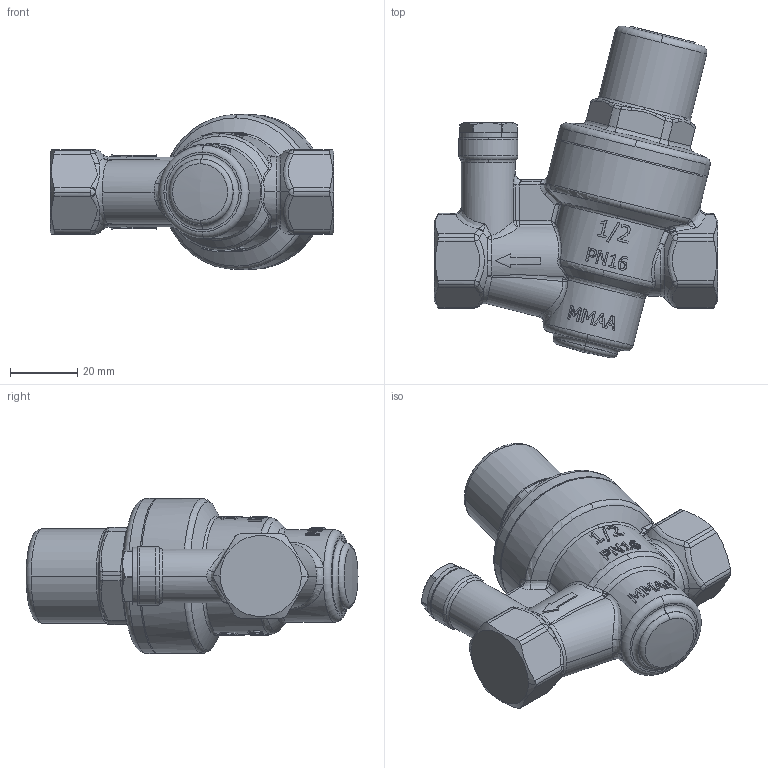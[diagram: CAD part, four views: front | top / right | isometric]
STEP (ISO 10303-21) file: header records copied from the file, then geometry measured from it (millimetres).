
FILE_DESCRIPTION (( 'STEP AP214' ), '1' );
FILE_NAME ('BPR_kompaktowy_reduktor_cisnienia_wody_9041100_0_3D_AFRISO.STEP', '2025-04-16T11:12:27', ( '' ), ( '' ), 'SwSTEP 2.0', 'SolidWorks 2024', '' );
FILE_SCHEMA (( 'AUTOMOTIVE_DESIGN' ));
Length unit declared in the file: millimetre
Products named in the file (4): 3001.871.13; 7027.115.00; BPR_kompaktowy_reduktor_cisnienia_wody_9041100_0_3D_AFRISO; 4401.008.00
Assembly tree (3 placements, depth 2):
  BPR_kompaktowy_reduktor_cisnienia_wody_9041100_0_3D_AFRISO
    4401.008.00
    3001.871.13
    7027.115.00
Bounding box: 84 x 98.47 x 46 mm (x, y, z)
Volume: 131004.4 mm3; surface area: 23675.3 mm2
Topology: 3 solids, 3 shells, 696 faces, 1806 edges, 1139 vertices
Faces by surface type: bspline 243, plane 221, cylinder 120, torus 55, cone 36, sphere 21
Entity records: 34752 total; most frequent: CARTESIAN_POINT 13934, ORIENTED_EDGE 3594, DIRECTION 2382, EDGE_CURVE 1797, VERTEX_POINT 1139, AXIS2_PLACEMENT_3D 874, EDGE_LOOP 728, B_SPLINE_CURVE_WITH_KNOTS 712
